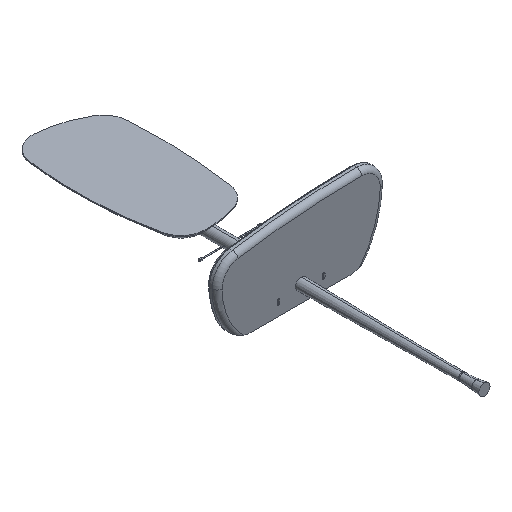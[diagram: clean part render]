
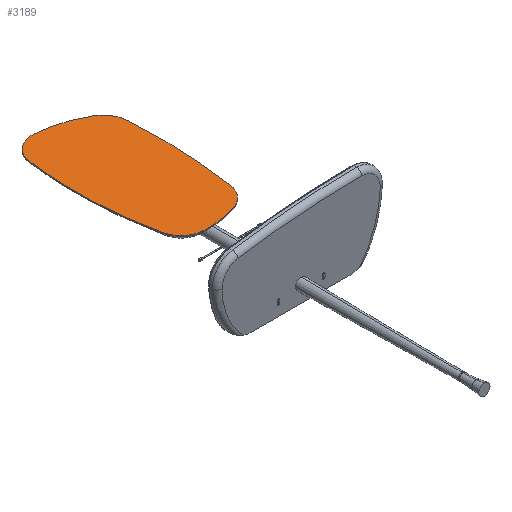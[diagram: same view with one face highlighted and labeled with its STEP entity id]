
A CAD part, isometric view. The second image highlights one B-rep face of the part: STEP entity #3189.
In plain terms, the highlighted planar face has unit normal (0, 0, 1).
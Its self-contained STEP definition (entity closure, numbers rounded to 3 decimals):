
#30 = DIRECTION ( 'NONE',  ( 0., 0., 1. ) ) ;
#102 = DIRECTION ( 'NONE',  ( 0., 0., 1. ) ) ;
#147 = AXIS2_PLACEMENT_3D ( 'NONE', #5456, #6443, #651 ) ;
#152 = CIRCLE ( 'NONE', #6454, 1488.028 ) ;
#289 = CIRCLE ( 'NONE', #6595, 95. ) ;
#517 = CARTESIAN_POINT ( 'NONE',  ( -245.351, 762.263, 769.496 ) ) ;
#558 = ORIENTED_EDGE ( 'NONE', *, *, #2471, .T. ) ;
#649 = ORIENTED_EDGE ( 'NONE', *, *, #4253, .T. ) ;
#651 = DIRECTION ( 'NONE',  ( 1., 0., 0. ) ) ;
#724 = DIRECTION ( 'NONE',  ( 1., 0., 0. ) ) ;
#899 = DIRECTION ( 'NONE',  ( 1., 0., 0. ) ) ;
#956 = DIRECTION ( 'NONE',  ( 1., 0., 0. ) ) ;
#1083 = PLANE ( 'NONE',  #147 ) ;
#1120 = VERTEX_POINT ( 'NONE', #2684 ) ;
#1326 = DIRECTION ( 'NONE',  ( 0., 0., 1. ) ) ;
#1349 = CIRCLE ( 'NONE', #7100, 407.885 ) ;
#1368 = CARTESIAN_POINT ( 'NONE',  ( -40.441, 781.833, 769.496 ) ) ;
#1702 = CARTESIAN_POINT ( 'NONE',  ( -147.9, 1192.499, 769.496 ) ) ;
#1784 = ORIENTED_EDGE ( 'NONE', *, *, #3576, .T. ) ;
#1827 = ORIENTED_EDGE ( 'NONE', *, *, #3621, .T. ) ;
#1882 = DIRECTION ( 'NONE',  ( 0., 0., 1. ) ) ;
#1991 = CIRCLE ( 'NONE', #5024, 110. ) ;
#1998 = AXIS2_PLACEMENT_3D ( 'NONE', #2502, #30, #724 ) ;
#2062 = CARTESIAN_POINT ( 'NONE',  ( -246.73, 1075.145, 769.496 ) ) ;
#2471 = EDGE_CURVE ( 'NONE', #4626, #4729, #2792, .T. ) ;
#2502 = CARTESIAN_POINT ( 'NONE',  ( -282.477, 1242.292, 769.496 ) ) ;
#2508 = EDGE_CURVE ( 'NONE', #2537, #6608, #2907, .T. ) ;
#2537 = VERTEX_POINT ( 'NONE', #8090 ) ;
#2560 = ORIENTED_EDGE ( 'NONE', *, *, #2508, .T. ) ;
#2684 = CARTESIAN_POINT ( 'NONE',  ( -337.378, 738.68, 769.496 ) ) ;
#2713 = EDGE_LOOP ( 'NONE', ( #4653, #649, #2560, #4698, #1827, #8320, #1784, #8051, #558 ) ) ;
#2792 = CIRCLE ( 'NONE', #8759, 2086.87 ) ;
#2907 = CIRCLE ( 'NONE', #1998, 95. ) ;
#3189 = ADVANCED_FACE ( 'NONE', ( #5312 ), #1083, .T. ) ;
#3404 = CARTESIAN_POINT ( 'NONE',  ( -38.409, 1203.073, 769.496 ) ) ;
#3459 = CARTESIAN_POINT ( 'NONE',  ( -290.285, 919.388, 769.496 ) ) ;
#3488 = CARTESIAN_POINT ( 'NONE',  ( 1104.07, 1108.078, 769.496 ) ) ;
#3576 = EDGE_CURVE ( 'NONE', #7296, #4542, #1349, .T. ) ;
#3621 = EDGE_CURVE ( 'NONE', #4096, #1120, #6981, .T. ) ;
#3654 = DIRECTION ( 'NONE',  ( 0., 0., 1. ) ) ;
#3763 = DIRECTION ( 'NONE',  ( 1., 0., 0. ) ) ;
#3893 = EDGE_CURVE ( 'NONE', #4729, #5485, #4930, .T. ) ;
#4096 = VERTEX_POINT ( 'NONE', #8205 ) ;
#4253 = EDGE_CURVE ( 'NONE', #5485, #2537, #5852, .T. ) ;
#4542 = VERTEX_POINT ( 'NONE', #7975 ) ;
#4572 = DIRECTION ( 'NONE',  ( 1., 0., 0. ) ) ;
#4626 = VERTEX_POINT ( 'NONE', #1368 ) ;
#4653 = ORIENTED_EDGE ( 'NONE', *, *, #3893, .T. ) ;
#4698 = ORIENTED_EDGE ( 'NONE', *, *, #6834, .T. ) ;
#4722 = DIRECTION ( 'NONE',  ( 1., 0., 0. ) ) ;
#4729 = VERTEX_POINT ( 'NONE', #3404 ) ;
#4749 = CARTESIAN_POINT ( 'NONE',  ( -97.048, 1290.039, 769.496 ) ) ;
#4851 = DIRECTION ( 'NONE',  ( 0., 0., 1. ) ) ;
#4930 = CIRCLE ( 'NONE', #8653, 110. ) ;
#5024 = AXIS2_PLACEMENT_3D ( 'NONE', #7551, #3654, #899 ) ;
#5296 = EDGE_CURVE ( 'NONE', #1120, #7296, #289, .T. ) ;
#5312 = FACE_OUTER_BOUND ( 'NONE', #2713, .T. ) ;
#5359 = CARTESIAN_POINT ( 'NONE',  ( -377.035, 1251.445, 769.496 ) ) ;
#5456 = CARTESIAN_POINT ( 'NONE',  ( -219.092, 1055.943, 769.496 ) ) ;
#5485 = VERTEX_POINT ( 'NONE', #4749 ) ;
#5660 = DIRECTION ( 'NONE',  ( 0., 0., 1. ) ) ;
#5852 = CIRCLE ( 'NONE', #7062, 417.998 ) ;
#6443 = DIRECTION ( 'NONE',  ( 0., 0., 1. ) ) ;
#6454 = AXIS2_PLACEMENT_3D ( 'NONE', #3488, #1326, #8496 ) ;
#6595 = AXIS2_PLACEMENT_3D ( 'NONE', #517, #4851, #7740 ) ;
#6608 = VERTEX_POINT ( 'NONE', #5359 ) ;
#6747 = DIRECTION ( 'NONE',  ( 0., 0., 1. ) ) ;
#6834 = EDGE_CURVE ( 'NONE', #6608, #4096, #152, .T. ) ;
#6981 = CIRCLE ( 'NONE', #7261, 1488.028 ) ;
#7062 = AXIS2_PLACEMENT_3D ( 'NONE', #3459, #1882, #8058 ) ;
#7100 = AXIS2_PLACEMENT_3D ( 'NONE', #2062, #5660, #3763 ) ;
#7261 = AXIS2_PLACEMENT_3D ( 'NONE', #7327, #8440, #4572 ) ;
#7296 = VERTEX_POINT ( 'NONE', #8045 ) ;
#7327 = CARTESIAN_POINT ( 'NONE',  ( 1104.07, 1108.078, 769.496 ) ) ;
#7551 = CARTESIAN_POINT ( 'NONE',  ( -149.825, 793.463, 769.496 ) ) ;
#7740 = DIRECTION ( 'NONE',  ( 1., 0., 0. ) ) ;
#7791 = EDGE_CURVE ( 'NONE', #4542, #4626, #1991, .T. ) ;
#7975 = CARTESIAN_POINT ( 'NONE',  ( -114.04, 689.446, 769.496 ) ) ;
#8045 = CARTESIAN_POINT ( 'NONE',  ( -244.933, 667.264, 769.496 ) ) ;
#8051 = ORIENTED_EDGE ( 'NONE', *, *, #7791, .T. ) ;
#8058 = DIRECTION ( 'NONE',  ( 1., 0., 0. ) ) ;
#8090 = CARTESIAN_POINT ( 'NONE',  ( -280.181, 1337.264, 769.496 ) ) ;
#8205 = CARTESIAN_POINT ( 'NONE',  ( -383.958, 1108.078, 769.496 ) ) ;
#8320 = ORIENTED_EDGE ( 'NONE', *, *, #5296, .T. ) ;
#8435 = CARTESIAN_POINT ( 'NONE',  ( -2115.615, 1002.467, 769.496 ) ) ;
#8440 = DIRECTION ( 'NONE',  ( 0., 0., 1. ) ) ;
#8496 = DIRECTION ( 'NONE',  ( 1., 0., 0. ) ) ;
#8653 = AXIS2_PLACEMENT_3D ( 'NONE', #1702, #6747, #4722 ) ;
#8759 = AXIS2_PLACEMENT_3D ( 'NONE', #8435, #102, #956 ) ;
